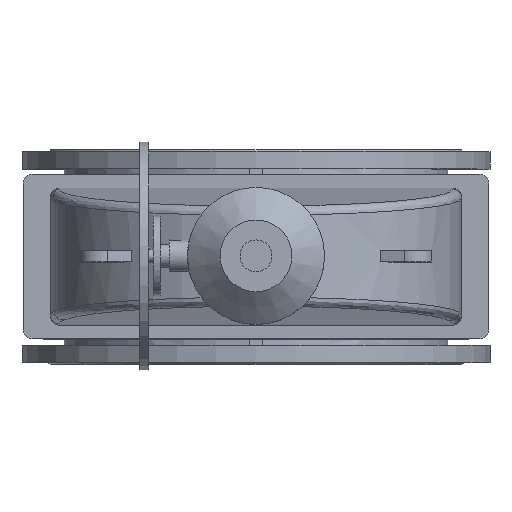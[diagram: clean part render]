
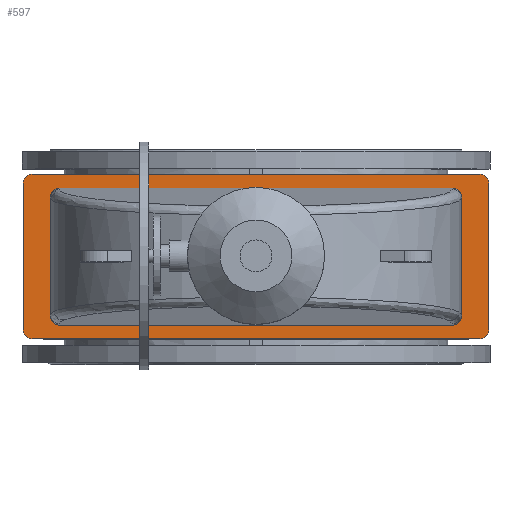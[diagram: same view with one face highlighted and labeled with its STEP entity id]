
A CAD part, top view. The second image highlights one B-rep face of the part: STEP entity #597.
In plain terms, the highlighted planar face has unit normal (0, 0, 1).
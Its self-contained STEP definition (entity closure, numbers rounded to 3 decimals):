
#597=ADVANCED_FACE('',(#4095,#4097),#4099,.T.);
#4095=FACE_BOUND('',#4096,.T.);
#4096=EDGE_LOOP('',(#8612,#8613,#8614,#8615,#8616,#8617,#8618,#8619));
#4097=FACE_BOUND('',#4098,.T.);
#4098=EDGE_LOOP('',(#8620,#8621,#8622,#8623,#8624,#8625,#8626,#8627));
#4099=PLANE('',#4100);
#4100=AXIS2_PLACEMENT_3D('',#4101,#4102,#4103);
#4101=CARTESIAN_POINT('',(0.,0.,886.));
#4102=DIRECTION('',(0.,-0.,1.));
#4103=DIRECTION('',(0.,1.,0.));
#8612=ORIENTED_EDGE('',*,*,#9934,.F.);
#8613=ORIENTED_EDGE('',*,*,#9935,.T.);
#8614=ORIENTED_EDGE('',*,*,#9936,.F.);
#8615=ORIENTED_EDGE('',*,*,#9937,.T.);
#8616=ORIENTED_EDGE('',*,*,#9938,.F.);
#8617=ORIENTED_EDGE('',*,*,#9939,.T.);
#8618=ORIENTED_EDGE('',*,*,#9940,.F.);
#8619=ORIENTED_EDGE('',*,*,#9941,.T.);
#8620=ORIENTED_EDGE('',*,*,#9932,.F.);
#8621=ORIENTED_EDGE('',*,*,#9931,.F.);
#8622=ORIENTED_EDGE('',*,*,#9933,.F.);
#8623=ORIENTED_EDGE('',*,*,#9906,.F.);
#8624=ORIENTED_EDGE('',*,*,#9942,.F.);
#8625=ORIENTED_EDGE('',*,*,#9943,.F.);
#8626=ORIENTED_EDGE('',*,*,#9944,.F.);
#8627=ORIENTED_EDGE('',*,*,#9899,.F.);
#9899=EDGE_CURVE('',#10654,#10656,#10657,.T.);
#9906=EDGE_CURVE('',#10666,#10664,#10668,.T.);
#9931=EDGE_CURVE('',#10707,#10705,#10709,.T.);
#9932=EDGE_CURVE('',#10705,#10654,#10710,.F.);
#9933=EDGE_CURVE('',#10664,#10707,#10711,.T.);
#9934=EDGE_CURVE('',#10712,#10713,#10714,.F.);
#9935=EDGE_CURVE('',#10712,#10715,#10716,.T.);
#9936=EDGE_CURVE('',#10717,#10715,#10718,.F.);
#9937=EDGE_CURVE('',#10717,#10719,#10720,.T.);
#9938=EDGE_CURVE('',#10721,#10719,#10722,.F.);
#9939=EDGE_CURVE('',#10721,#10723,#10724,.T.);
#9940=EDGE_CURVE('',#10725,#10723,#10726,.F.);
#9941=EDGE_CURVE('',#10725,#10713,#10727,.T.);
#9942=EDGE_CURVE('',#10728,#10666,#10729,.F.);
#9943=EDGE_CURVE('',#10730,#10728,#10731,.T.);
#9944=EDGE_CURVE('',#10656,#10730,#10732,.T.);
#10654=VERTEX_POINT('',#12148);
#10656=VERTEX_POINT('',#12152);
#10657=LINE('',#12153,#12154);
#10664=VERTEX_POINT('',#12173);
#10666=VERTEX_POINT('',#12177);
#10668=LINE('',#12181,#12182);
#10705=VERTEX_POINT('',#12274);
#10707=VERTEX_POINT('',#12278);
#10709=LINE('',#12282,#12283);
#10710=(BOUNDED_CURVE()B_SPLINE_CURVE(3,
(#12285,#12286,#12287,#12288),
.UNSPECIFIED.,.F.,.F.)B_SPLINE_CURVE_WITH_KNOTS((4,4),
(0.,1.),
.UNSPECIFIED.)CURVE()GEOMETRIC_REPRESENTATION_ITEM()RATIONAL_B_SPLINE_CURVE((1.,
0.805,0.805,1.))REPRESENTATION_ITEM(''));
#10711=(BOUNDED_CURVE()B_SPLINE_CURVE(3,
(#12289,#12290,#12291,#12292),
.UNSPECIFIED.,.F.,.F.)B_SPLINE_CURVE_WITH_KNOTS((4,4),
(0.,1.),
.UNSPECIFIED.)CURVE()GEOMETRIC_REPRESENTATION_ITEM()RATIONAL_B_SPLINE_CURVE((1.,
0.805,0.805,1.))REPRESENTATION_ITEM(''));
#10712=VERTEX_POINT('',#12293);
#10713=VERTEX_POINT('',#12294);
#10714=CIRCLE('',#12295,20.);
#10715=VERTEX_POINT('',#12299);
#10716=LINE('',#12300,#12301);
#10717=VERTEX_POINT('',#12303);
#10718=CIRCLE('',#12304,20.);
#10719=VERTEX_POINT('',#12308);
#10720=LINE('',#12309,#12310);
#10721=VERTEX_POINT('',#12312);
#10722=CIRCLE('',#12313,20.);
#10723=VERTEX_POINT('',#12317);
#10724=LINE('',#12318,#12319);
#10725=VERTEX_POINT('',#12321);
#10726=CIRCLE('',#12322,20.);
#10727=LINE('',#12326,#12327);
#10728=VERTEX_POINT('',#12329);
#10729=(BOUNDED_CURVE()B_SPLINE_CURVE(3,
(#12330,#12331,#12332,#12333),
.UNSPECIFIED.,.F.,.F.)B_SPLINE_CURVE_WITH_KNOTS((4,4),
(0.,1.),
.UNSPECIFIED.)CURVE()GEOMETRIC_REPRESENTATION_ITEM()RATIONAL_B_SPLINE_CURVE((1.,
0.805,0.805,1.))REPRESENTATION_ITEM(''));
#10730=VERTEX_POINT('',#12334);
#10731=LINE('',#12335,#12336);
#10732=(BOUNDED_CURVE()B_SPLINE_CURVE(3,
(#12338,#12339,#12340,#12341),
.UNSPECIFIED.,.F.,.F.)B_SPLINE_CURVE_WITH_KNOTS((4,4),
(0.,1.),
.UNSPECIFIED.)CURVE()GEOMETRIC_REPRESENTATION_ITEM()RATIONAL_B_SPLINE_CURVE((1.,
0.805,0.805,1.))REPRESENTATION_ITEM(''));
#12148=CARTESIAN_POINT('',(450.,-129.924,886.));
#12152=CARTESIAN_POINT('',(450.,129.924,886.));
#12153=CARTESIAN_POINT('',(450.,-129.924,886.));
#12154=VECTOR('',#12155,1.);
#12155=DIRECTION('',(0.,1.,0.));
#12173=CARTESIAN_POINT('',(-450.,-129.924,886.));
#12177=CARTESIAN_POINT('',(-450.,129.924,886.));
#12181=CARTESIAN_POINT('',(-450.,129.924,886.));
#12182=VECTOR('',#12183,1.);
#12183=DIRECTION('',(0.,-1.,0.));
#12274=CARTESIAN_POINT('',(430.,-150.,886.));
#12278=CARTESIAN_POINT('',(-430.,-150.,886.));
#12282=CARTESIAN_POINT('',(-430.,-150.,886.));
#12283=VECTOR('',#12284,1.);
#12284=DIRECTION('',(1.,0.,0.));
#12285=CARTESIAN_POINT('',(450.,-129.924,886.));
#12286=CARTESIAN_POINT('',(450.,-141.684,886.));
#12287=CARTESIAN_POINT('',(441.716,-150.,886.));
#12288=CARTESIAN_POINT('',(430.,-150.,886.));
#12289=CARTESIAN_POINT('',(-450.,-129.924,886.));
#12290=CARTESIAN_POINT('',(-450.,-141.684,886.));
#12291=CARTESIAN_POINT('',(-441.716,-150.,886.));
#12292=CARTESIAN_POINT('',(-430.,-150.,886.));
#12293=CARTESIAN_POINT('',(-490.,-180.,886.));
#12294=CARTESIAN_POINT('',(-510.,-160.,886.));
#12295=AXIS2_PLACEMENT_3D('',#12296,#12297,#12298);
#12296=CARTESIAN_POINT('',(-490.,-160.,886.));
#12297=DIRECTION('',(0.,-0.,1.));
#12298=DIRECTION('',(-1.,0.,0.));
#12299=CARTESIAN_POINT('',(490.,-180.,886.));
#12300=CARTESIAN_POINT('',(-490.,-180.,886.));
#12301=VECTOR('',#12302,1.);
#12302=DIRECTION('',(1.,0.,0.));
#12303=CARTESIAN_POINT('',(510.,-160.,886.));
#12304=AXIS2_PLACEMENT_3D('',#12305,#12306,#12307);
#12305=CARTESIAN_POINT('',(490.,-160.,886.));
#12306=DIRECTION('',(0.,-0.,1.));
#12307=DIRECTION('',(0.,-1.,0.));
#12308=CARTESIAN_POINT('',(510.,160.,886.));
#12309=CARTESIAN_POINT('',(510.,-160.,886.));
#12310=VECTOR('',#12311,1.);
#12311=DIRECTION('',(0.,1.,0.));
#12312=CARTESIAN_POINT('',(490.,180.,886.));
#12313=AXIS2_PLACEMENT_3D('',#12314,#12315,#12316);
#12314=CARTESIAN_POINT('',(490.,160.,886.));
#12315=DIRECTION('',(0.,-0.,1.));
#12316=DIRECTION('',(1.,0.,0.));
#12317=CARTESIAN_POINT('',(-490.,180.,886.));
#12318=CARTESIAN_POINT('',(490.,180.,886.));
#12319=VECTOR('',#12320,1.);
#12320=DIRECTION('',(-1.,0.,0.));
#12321=CARTESIAN_POINT('',(-510.,160.,886.));
#12322=AXIS2_PLACEMENT_3D('',#12323,#12324,#12325);
#12323=CARTESIAN_POINT('',(-490.,160.,886.));
#12324=DIRECTION('',(0.,-0.,1.));
#12325=DIRECTION('',(0.,1.,0.));
#12326=CARTESIAN_POINT('',(-510.,160.,886.));
#12327=VECTOR('',#12328,1.);
#12328=DIRECTION('',(0.,-1.,0.));
#12329=CARTESIAN_POINT('',(-430.,150.,886.));
#12330=CARTESIAN_POINT('',(-450.,129.924,886.));
#12331=CARTESIAN_POINT('',(-450.,141.684,886.));
#12332=CARTESIAN_POINT('',(-441.716,150.,886.));
#12333=CARTESIAN_POINT('',(-430.,150.,886.));
#12334=CARTESIAN_POINT('',(430.,150.,886.));
#12335=CARTESIAN_POINT('',(430.,150.,886.));
#12336=VECTOR('',#12337,1.);
#12337=DIRECTION('',(-1.,0.,0.));
#12338=CARTESIAN_POINT('',(450.,129.924,886.));
#12339=CARTESIAN_POINT('',(450.,141.684,886.));
#12340=CARTESIAN_POINT('',(441.716,150.,886.));
#12341=CARTESIAN_POINT('',(430.,150.,886.));
